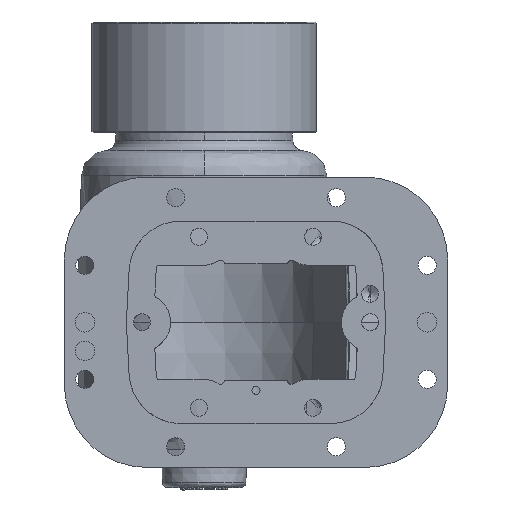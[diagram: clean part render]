
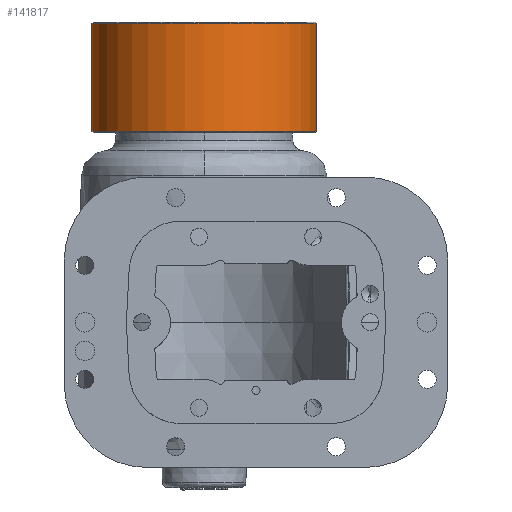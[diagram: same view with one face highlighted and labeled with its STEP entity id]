
A CAD part, front view. The second image highlights one B-rep face of the part: STEP entity #141817.
In plain terms, the highlighted cylindrical face has radius 68.821 mm (diameter 137.643 mm), a partial arc.
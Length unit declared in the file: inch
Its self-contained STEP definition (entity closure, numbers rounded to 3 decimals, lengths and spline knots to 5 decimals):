
#2077 = CARTESIAN_POINT ( 'NONE',  ( -2.7095, 0., 0.031 ) ) ;
#3937 = AXIS2_PLACEMENT_3D ( 'NONE', #46673, #68916, #131544 ) ;
#7206 = LINE ( 'NONE', #41374, #81884 ) ;
#12125 = ORIENTED_EDGE ( 'NONE', *, *, #126764, .F. ) ;
#15448 = CIRCLE ( 'NONE', #134499, 2.7095 ) ;
#21317 = VERTEX_POINT ( 'NONE', #153450 ) ;
#26884 = DIRECTION ( 'NONE',  ( -1., 0., 0. ) ) ;
#27598 = ORIENTED_EDGE ( 'NONE', *, *, #62538, .T. ) ;
#32189 = ORIENTED_EDGE ( 'NONE', *, *, #126672, .T. ) ;
#32589 = DIRECTION ( 'NONE',  ( 0., 0., -1. ) ) ;
#41374 = CARTESIAN_POINT ( 'NONE',  ( -2.7095, 0., 2.67 ) ) ;
#45250 = EDGE_CURVE ( 'NONE', #90021, #21317, #97766, .T. ) ;
#46673 = CARTESIAN_POINT ( 'NONE',  ( 0., 0., 2.639 ) ) ;
#53929 = VERTEX_POINT ( 'NONE', #102215 ) ;
#57191 = LINE ( 'NONE', #86290, #74271 ) ;
#62538 = EDGE_CURVE ( 'NONE', #152715, #53929, #15448, .T. ) ;
#68888 = AXIS2_PLACEMENT_3D ( 'NONE', #107326, #143060, #26884 ) ;
#68916 = DIRECTION ( 'NONE',  ( 0., 0., -1. ) ) ;
#74271 = VECTOR ( 'NONE', #154036, 39.37008 ) ;
#75282 = FACE_OUTER_BOUND ( 'NONE', #85924, .T. ) ;
#81884 = VECTOR ( 'NONE', #32589, 39.37008 ) ;
#81972 = CYLINDRICAL_SURFACE ( 'NONE', #68888, 2.7095 ) ;
#85924 = EDGE_LOOP ( 'NONE', ( #12125, #156758, #32189, #27598 ) ) ;
#86290 = CARTESIAN_POINT ( 'NONE',  ( 2.7095, 0., 2.67 ) ) ;
#90021 = VERTEX_POINT ( 'NONE', #145966 ) ;
#97766 = CIRCLE ( 'NONE', #3937, 2.7095 ) ;
#102215 = CARTESIAN_POINT ( 'NONE',  ( 2.7095, 0., 0.031 ) ) ;
#107326 = CARTESIAN_POINT ( 'NONE',  ( 0., 0., 2.67 ) ) ;
#122836 = CARTESIAN_POINT ( 'NONE',  ( 0., 0., 0.031 ) ) ;
#126672 = EDGE_CURVE ( 'NONE', #21317, #152715, #7206, .T. ) ;
#126764 = EDGE_CURVE ( 'NONE', #90021, #53929, #57191, .T. ) ;
#131544 = DIRECTION ( 'NONE',  ( 1., 0., 0. ) ) ;
#131606 = DIRECTION ( 'NONE',  ( 0., 0., 1. ) ) ;
#133963 = DIRECTION ( 'NONE',  ( 1., 0., 0. ) ) ;
#134499 = AXIS2_PLACEMENT_3D ( 'NONE', #122836, #131606, #133963 ) ;
#141817 = ADVANCED_FACE ( 'NONE', ( #75282 ), #81972, .T. ) ;
#143060 = DIRECTION ( 'NONE',  ( 0., 0., -1. ) ) ;
#145966 = CARTESIAN_POINT ( 'NONE',  ( 2.7095, 0., 2.639 ) ) ;
#152715 = VERTEX_POINT ( 'NONE', #2077 ) ;
#153450 = CARTESIAN_POINT ( 'NONE',  ( -2.7095, 0., 2.639 ) ) ;
#154036 = DIRECTION ( 'NONE',  ( 0., 0., -1. ) ) ;
#156758 = ORIENTED_EDGE ( 'NONE', *, *, #45250, .T. ) ;
